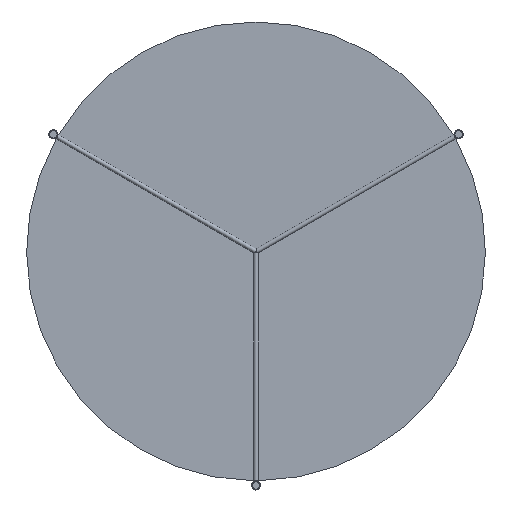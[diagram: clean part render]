
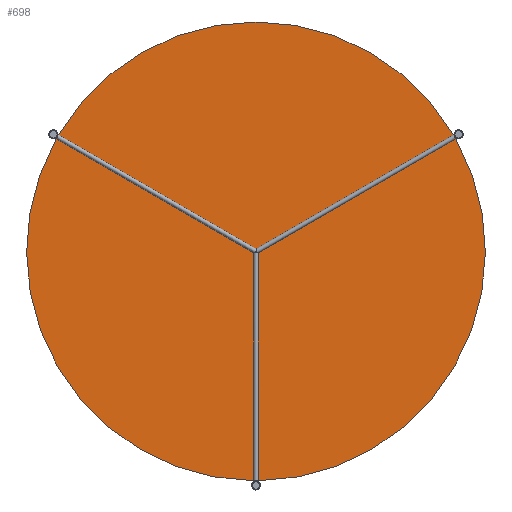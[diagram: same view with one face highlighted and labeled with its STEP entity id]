
A CAD part, front view. The second image highlights one B-rep face of the part: STEP entity #698.
In plain terms, the highlighted planar face has unit normal (0, -1, 0).
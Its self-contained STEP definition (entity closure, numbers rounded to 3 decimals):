
#14 = DIRECTION ( 'NONE',  ( 0., 1., 0. ) ) ;
#27 = CIRCLE ( 'NONE', #666, 10. ) ;
#43 = EDGE_CURVE ( 'NONE', #1622, #715, #3351, .T. ) ;
#62 = VERTEX_POINT ( 'NONE', #3391 ) ;
#100 = EDGE_CURVE ( 'NONE', #1852, #3536, #3753, .T. ) ;
#133 = EDGE_CURVE ( 'NONE', #62, #1622, #27, .T. ) ;
#145 = ORIENTED_EDGE ( 'NONE', *, *, #2718, .T. ) ;
#200 = VERTEX_POINT ( 'NONE', #2661 ) ;
#221 = EDGE_CURVE ( 'NONE', #1111, #62, #3947, .T. ) ;
#280 = DIRECTION ( 'NONE',  ( 0., 0., -1. ) ) ;
#349 = EDGE_CURVE ( 'NONE', #715, #3531, #2760, .T. ) ;
#425 = CARTESIAN_POINT ( 'NONE',  ( 6., 251., -502.07 ) ) ;
#448 = CARTESIAN_POINT ( 'NONE',  ( 0., 251., 500. ) ) ;
#497 = EDGE_CURVE ( 'NONE', #2565, #2050, #2636, .T. ) ;
#541 = DIRECTION ( 'NONE',  ( 0., 0., -1. ) ) ;
#583 = VECTOR ( 'NONE', #916, 1000. ) ;
#591 = VECTOR ( 'NONE', #3596, 1000. ) ;
#599 = CARTESIAN_POINT ( 'NONE',  ( 0., 251., 0. ) ) ;
#620 = CARTESIAN_POINT ( 'NONE',  ( 429.982, 251., 255.178 ) ) ;
#628 = CARTESIAN_POINT ( 'NONE',  ( -438.734, 251., 260.231 ) ) ;
#629 = EDGE_LOOP ( 'NONE', ( #2707, #4244, #3212, #1557, #145, #2117, #3437, #3925, #1061, #3583, #805, #3289, #1821 ) ) ;
#666 = AXIS2_PLACEMENT_3D ( 'NONE', #2919, #827, #2228 ) ;
#668 = CARTESIAN_POINT ( 'NONE',  ( 6., 251., -499.964 ) ) ;
#698 = ADVANCED_FACE ( 'NONE', ( #2983 ), #4309, .T. ) ;
#715 = VERTEX_POINT ( 'NONE', #620 ) ;
#805 = ORIENTED_EDGE ( 'NONE', *, *, #43, .T. ) ;
#827 = DIRECTION ( 'NONE',  ( 0., 1., 0. ) ) ;
#846 = CARTESIAN_POINT ( 'NONE',  ( -6., 251., -502.07 ) ) ;
#856 = DIRECTION ( 'NONE',  ( 0., -1., 0. ) ) ;
#879 = DIRECTION ( 'NONE',  ( 0., 0., -1. ) ) ;
#916 = DIRECTION ( 'NONE',  ( 0.866, 0., 0.5 ) ) ;
#961 = CARTESIAN_POINT ( 'NONE',  ( 444.734, 251., 249.839 ) ) ;
#1043 = CARTESIAN_POINT ( 'NONE',  ( -431.805, 251., 256.231 ) ) ;
#1061 = ORIENTED_EDGE ( 'NONE', *, *, #221, .T. ) ;
#1111 = VERTEX_POINT ( 'NONE', #2999 ) ;
#1140 = AXIS2_PLACEMENT_3D ( 'NONE', #599, #1885, #1299 ) ;
#1229 = VECTOR ( 'NONE', #3317, 1000. ) ;
#1237 = EDGE_CURVE ( 'NONE', #3531, #200, #2639, .T. ) ;
#1243 = CARTESIAN_POINT ( 'NONE',  ( -6., 251., -510.07 ) ) ;
#1299 = DIRECTION ( 'NONE',  ( 0., 0., -1. ) ) ;
#1326 = DIRECTION ( 'NONE',  ( 0., -1., 0. ) ) ;
#1329 = LINE ( 'NONE', #1942, #1229 ) ;
#1360 = AXIS2_PLACEMENT_3D ( 'NONE', #2249, #14, #3371 ) ;
#1438 = AXIS2_PLACEMENT_3D ( 'NONE', #2948, #1326, #280 ) ;
#1441 = EDGE_CURVE ( 'NONE', #200, #2565, #2968, .T. ) ;
#1443 = CARTESIAN_POINT ( 'NONE',  ( -437.805, 251., 245.839 ) ) ;
#1446 = CARTESIAN_POINT ( 'NONE',  ( -441.734, 251., 255.035 ) ) ;
#1449 = EDGE_CURVE ( 'NONE', #1834, #1111, #3056, .T. ) ;
#1557 = ORIENTED_EDGE ( 'NONE', *, *, #2445, .T. ) ;
#1622 = VERTEX_POINT ( 'NONE', #3724 ) ;
#1641 = AXIS2_PLACEMENT_3D ( 'NONE', #4263, #856, #879 ) ;
#1749 = DIRECTION ( 'NONE',  ( 0., 0., -1. ) ) ;
#1809 = LINE ( 'NONE', #1243, #2710 ) ;
#1819 = DIRECTION ( 'NONE',  ( 0., 1., 0. ) ) ;
#1821 = ORIENTED_EDGE ( 'NONE', *, *, #1237, .T. ) ;
#1834 = VERTEX_POINT ( 'NONE', #668 ) ;
#1852 = VERTEX_POINT ( 'NONE', #846 ) ;
#1885 = DIRECTION ( 'NONE',  ( 0., -1., 0. ) ) ;
#1942 = CARTESIAN_POINT ( 'NONE',  ( -435.982, 251., 244.786 ) ) ;
#2007 = CARTESIAN_POINT ( 'NONE',  ( 0., 251., 0. ) ) ;
#2050 = VERTEX_POINT ( 'NONE', #1443 ) ;
#2117 = ORIENTED_EDGE ( 'NONE', *, *, #100, .T. ) ;
#2149 = DIRECTION ( 'NONE',  ( -0.866, 0., -0.5 ) ) ;
#2202 = VECTOR ( 'NONE', #2149, 1000. ) ;
#2228 = DIRECTION ( 'NONE',  ( 0., 0., -1. ) ) ;
#2249 = CARTESIAN_POINT ( 'NONE',  ( 0., 251., -510.07 ) ) ;
#2421 = VECTOR ( 'NONE', #3958, 1000. ) ;
#2445 = EDGE_CURVE ( 'NONE', #3140, #2675, #4030, .T. ) ;
#2565 = VERTEX_POINT ( 'NONE', #1043 ) ;
#2625 = LINE ( 'NONE', #4236, #2421 ) ;
#2633 = AXIS2_PLACEMENT_3D ( 'NONE', #2007, #3359, #1749 ) ;
#2636 = CIRCLE ( 'NONE', #3179, 10. ) ;
#2639 = CIRCLE ( 'NONE', #3115, 500. ) ;
#2661 = CARTESIAN_POINT ( 'NONE',  ( -429.982, 251., 255.178 ) ) ;
#2675 = VERTEX_POINT ( 'NONE', #4206 ) ;
#2685 = DIRECTION ( 'NONE',  ( 0., -1., 0. ) ) ;
#2707 = ORIENTED_EDGE ( 'NONE', *, *, #1441, .T. ) ;
#2710 = VECTOR ( 'NONE', #541, 1000. ) ;
#2718 = EDGE_CURVE ( 'NONE', #2675, #1852, #1809, .T. ) ;
#2760 = CIRCLE ( 'NONE', #2633, 500. ) ;
#2919 = CARTESIAN_POINT ( 'NONE',  ( 441.734, 251., 255.035 ) ) ;
#2948 = CARTESIAN_POINT ( 'NONE',  ( 0., 251., 0. ) ) ;
#2968 = LINE ( 'NONE', #628, #591 ) ;
#2983 = FACE_OUTER_BOUND ( 'NONE', #629, .T. ) ;
#2999 = CARTESIAN_POINT ( 'NONE',  ( 435.982, 251., 244.786 ) ) ;
#3056 = CIRCLE ( 'NONE', #1438, 500. ) ;
#3115 = AXIS2_PLACEMENT_3D ( 'NONE', #4346, #2685, #4016 ) ;
#3140 = VERTEX_POINT ( 'NONE', #3680 ) ;
#3179 = AXIS2_PLACEMENT_3D ( 'NONE', #1446, #1819, #4111 ) ;
#3212 = ORIENTED_EDGE ( 'NONE', *, *, #3686, .T. ) ;
#3289 = ORIENTED_EDGE ( 'NONE', *, *, #349, .T. ) ;
#3317 = DIRECTION ( 'NONE',  ( 0.866, 0., -0.5 ) ) ;
#3341 = EDGE_CURVE ( 'NONE', #3536, #1834, #2625, .T. ) ;
#3351 = LINE ( 'NONE', #3551, #2202 ) ;
#3359 = DIRECTION ( 'NONE',  ( 0., -1., 0. ) ) ;
#3371 = DIRECTION ( 'NONE',  ( 0., 0., -1. ) ) ;
#3391 = CARTESIAN_POINT ( 'NONE',  ( 437.805, 251., 245.839 ) ) ;
#3437 = ORIENTED_EDGE ( 'NONE', *, *, #3341, .T. ) ;
#3531 = VERTEX_POINT ( 'NONE', #448 ) ;
#3536 = VERTEX_POINT ( 'NONE', #425 ) ;
#3551 = CARTESIAN_POINT ( 'NONE',  ( 429.982, 251., 255.178 ) ) ;
#3583 = ORIENTED_EDGE ( 'NONE', *, *, #133, .T. ) ;
#3596 = DIRECTION ( 'NONE',  ( -0.866, 0., 0.5 ) ) ;
#3680 = CARTESIAN_POINT ( 'NONE',  ( -435.982, 251., 244.786 ) ) ;
#3686 = EDGE_CURVE ( 'NONE', #2050, #3140, #1329, .T. ) ;
#3724 = CARTESIAN_POINT ( 'NONE',  ( 431.805, 251., 256.231 ) ) ;
#3753 = CIRCLE ( 'NONE', #1360, 10. ) ;
#3925 = ORIENTED_EDGE ( 'NONE', *, *, #1449, .T. ) ;
#3947 = LINE ( 'NONE', #961, #583 ) ;
#3958 = DIRECTION ( 'NONE',  ( 0., 0., 1. ) ) ;
#4016 = DIRECTION ( 'NONE',  ( 0., 0., -1. ) ) ;
#4030 = CIRCLE ( 'NONE', #1641, 500. ) ;
#4111 = DIRECTION ( 'NONE',  ( 0., 0., -1. ) ) ;
#4206 = CARTESIAN_POINT ( 'NONE',  ( -6., 251., -499.964 ) ) ;
#4236 = CARTESIAN_POINT ( 'NONE',  ( 6., 251., -499.964 ) ) ;
#4244 = ORIENTED_EDGE ( 'NONE', *, *, #497, .T. ) ;
#4263 = CARTESIAN_POINT ( 'NONE',  ( 0., 251., 0. ) ) ;
#4309 = PLANE ( 'NONE',  #1140 ) ;
#4346 = CARTESIAN_POINT ( 'NONE',  ( 0., 251., 0. ) ) ;
